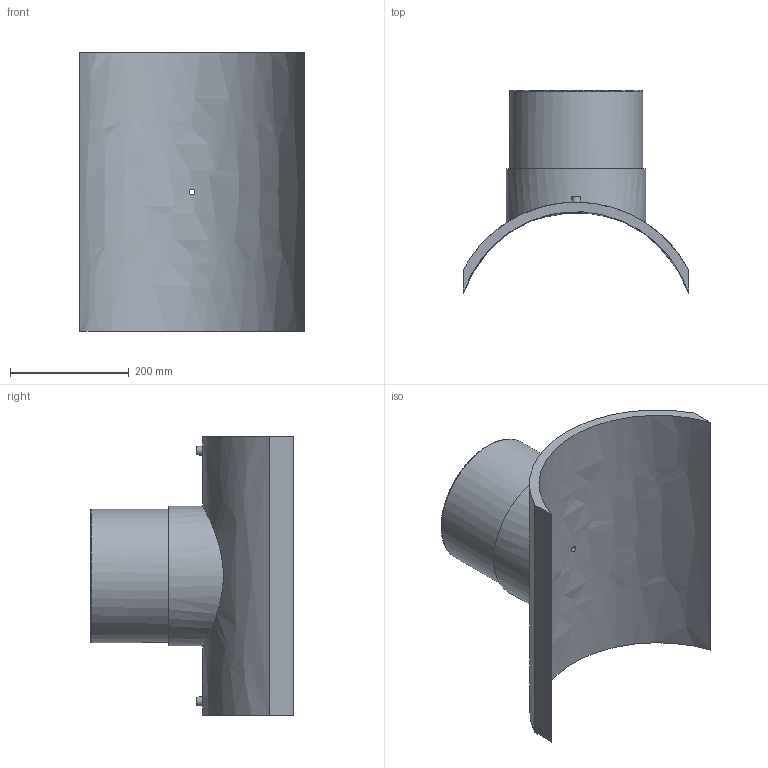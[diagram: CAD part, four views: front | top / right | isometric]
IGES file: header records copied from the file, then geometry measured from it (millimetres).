
Global section: file name: 495803400225T; native system: Autodesk Inventor 2019; preprocessor: unknown; author: KIM; date: 20240404.115038; units: millimetre
Bounding box: 380 x 342.55 x 470 mm (x, y, z)
Volume: 6808316.5 mm3; surface area: 775795.2 mm2
Topology: 1 solids, 1 shells, 29 faces, 60 edges, 43 vertices
Faces by surface type: bspline 29
